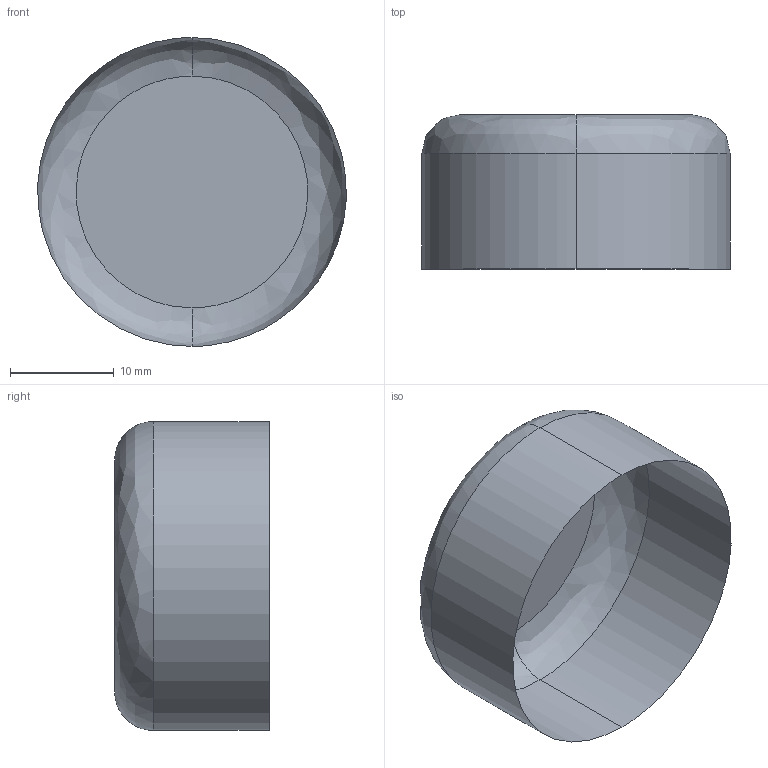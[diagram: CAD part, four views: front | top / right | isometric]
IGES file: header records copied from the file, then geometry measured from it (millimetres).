
Start section:  File: C:\Documents and Settings\dhasani\Desktop\Roller_Geometry\ /COM,ANSYS RELEASE 13.0    UP20101012       23:27:46    04/21/2011 /NOPR /PREP7 /TITLE, File: C:\Documents and Settings\dhasani\Desktop\Roller_Geometry\ *SET,_BUTTON,0.000000000000 *SET,_GUI_CLR_BG,'systemButtonFace' *SET,_GUI_CLR_FG,'systemButtonText' *SET,_GUI_CLR_INFOBG,'systemInfoBackground' *SET,_GUI_CLR_SEL,'systemHighlight' *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
Global section: file name: file2.iges; native system: ANSYS; preprocessor:   13.0      UP20101012; date: 000421.232746
Bounding box: 29.67 x 14.86 x 29.72 mm (x, y, z)
Surface area: 1925.9 mm2 (no closed solid volume)
Topology: 0 solids, 0 shells, 5 faces, 18 edges, 18 vertices
Faces by surface type: bspline 5
